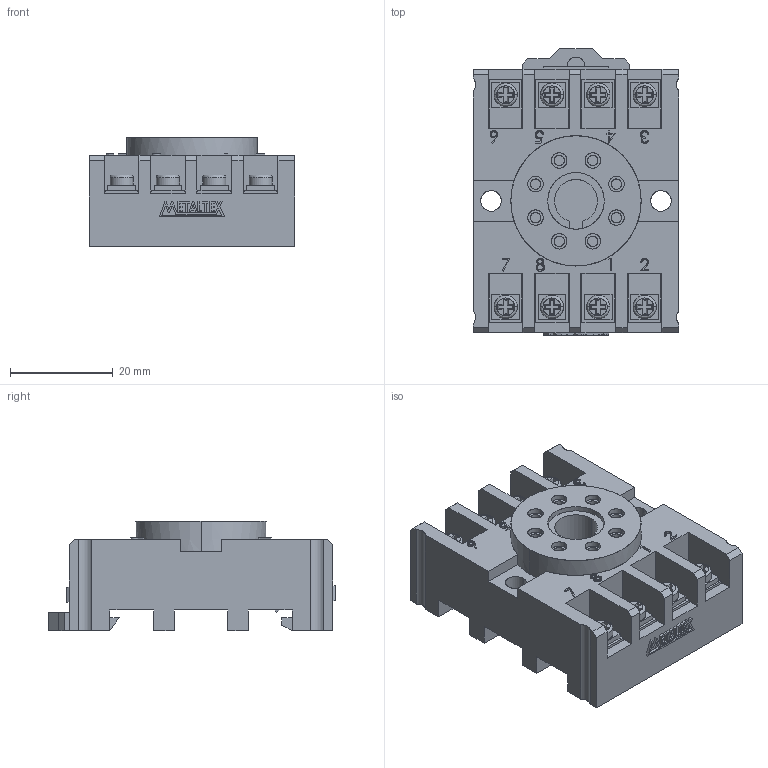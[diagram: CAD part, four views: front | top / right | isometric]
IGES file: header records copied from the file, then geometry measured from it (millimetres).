
Start section: SolidWorks IGES file using analytic representation for surfaces
Global section: file name: D:\X - Arquivos\PROEX\Empresas\P11 - METALTEX\01 - Produtos\IGES\6ª remessa\3ª etapa\PRT9-08.IGS; native system: SolidWorks 2012; preprocessor: SolidWorks 2012; author: Usuario; date: 190222.170530; units: millimetre
Bounding box: 40 x 55.7 x 21.2 mm (x, y, z)
Surface area: 11846.3 mm2 (no closed solid volume)
Topology: 0 solids, 0 shells, 721 faces, 6460 edges, 6460 vertices
Faces by surface type: bspline 655, revolution 66
